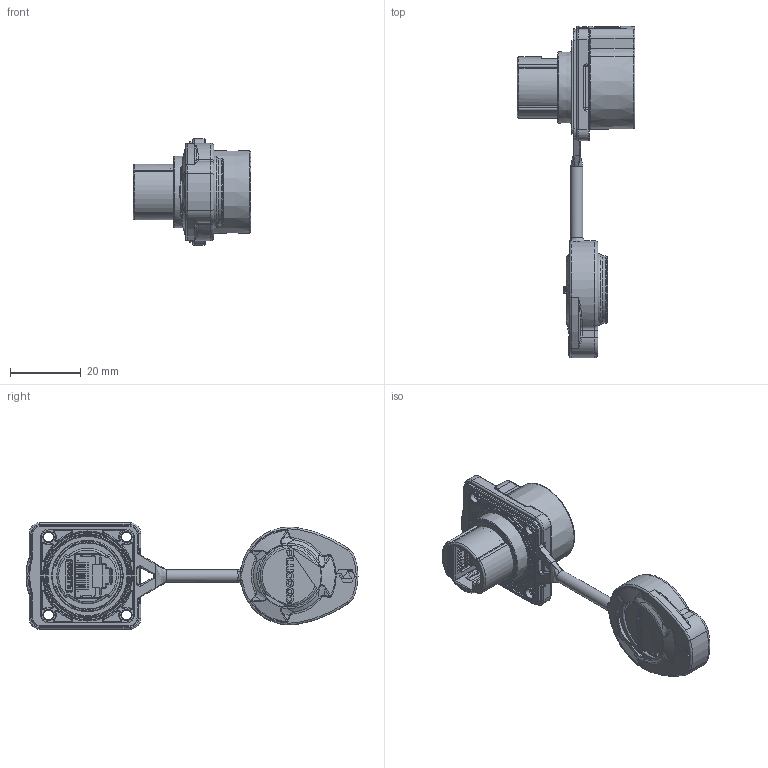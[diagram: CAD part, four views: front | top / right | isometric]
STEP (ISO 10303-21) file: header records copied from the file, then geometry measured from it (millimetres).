
FILE_DESCRIPTION (( 'STEP AP203' ), '1' );
FILE_NAME ('PLG20 RJ45侐謂脣釱.STEP', '2025-03-20T02:51:37', ( '' ), ( '' ), 'SwSTEP 2.0', 'SolidWorks 2024', '' );
FILE_SCHEMA (( 'CONFIG_CONTROL_DESIGN' ));
Length unit declared in the file: millimetre
Products named in the file (1): PLG20 RJ45四孔插座
Bounding box: 33.2 x 93.64 x 30 mm (x, y, z)
Volume: 13857.9 mm3; surface area: 15500.3 mm2
Topology: 17 solids, 24 shells, 2375 faces, 6460 edges, 4137 vertices
Faces by surface type: plane 1176, cylinder 622, bspline 291, torus 203, cone 73, sphere 10
Full cylindrical faces by diameter (mm): 0.632 x1, 0.638 x1, 1.061 x1, 1.244 x1, 1.256 x1, 2.088 x1, 2.8 x4, 3.3 x4, 3.5 x1, 6 x4, 15.2 x1, 16.2 x1, 16.5 x1, 18.6 x1, 19.1 x1, 19.5 x3, 22.3 x1, 23.5 x1, 25 x1
Entity records: 82404 total; most frequent: CARTESIAN_POINT 24681, ORIENTED_EDGE 12706, DIRECTION 11124, EDGE_CURVE 6353, VERTEX_POINT 4113, VECTOR 3732, LINE 3732, AXIS2_PLACEMENT_3D 3696
